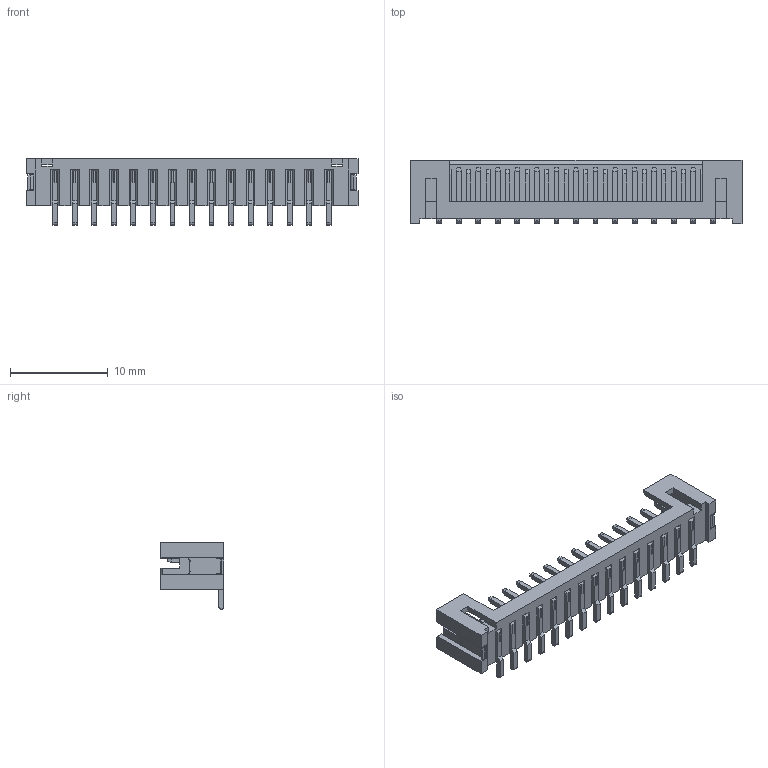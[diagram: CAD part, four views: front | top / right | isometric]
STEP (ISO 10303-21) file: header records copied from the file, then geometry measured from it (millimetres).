
FILE_DESCRIPTION((''),'2;1');
FILE_NAME('S-50310-020XX-XXX','2015-09-16T',('d29855'),(''),'CREO PARAMETRIC BY PTC INC, 2014500','CREO PARAMETRIC BY PTC INC, 2014500','');
FILE_SCHEMA(('CONFIG_CONTROL_DESIGN'));
Length unit declared in the file: millimetre
Products named in the file (1): S-50310-020XX-XXX
Bounding box: 34 x 6.5 x 6.8 mm (x, y, z)
Volume: 407.5 mm3; surface area: 1212.6 mm2
Topology: 1 solids, 44 shells, 899 faces, 2196 edges, 1396 vertices
Faces by surface type: plane 853, cylinder 46
Entity records: 25612 total; most frequent: CARTESIAN_POINT 4509, ORIENTED_EDGE 4392, DIRECTION 4078, EDGE_CURVE 2196, VECTOR 2096, LINE 2096, VERTEX_POINT 1396, AXIS2_PLACEMENT_3D 991
